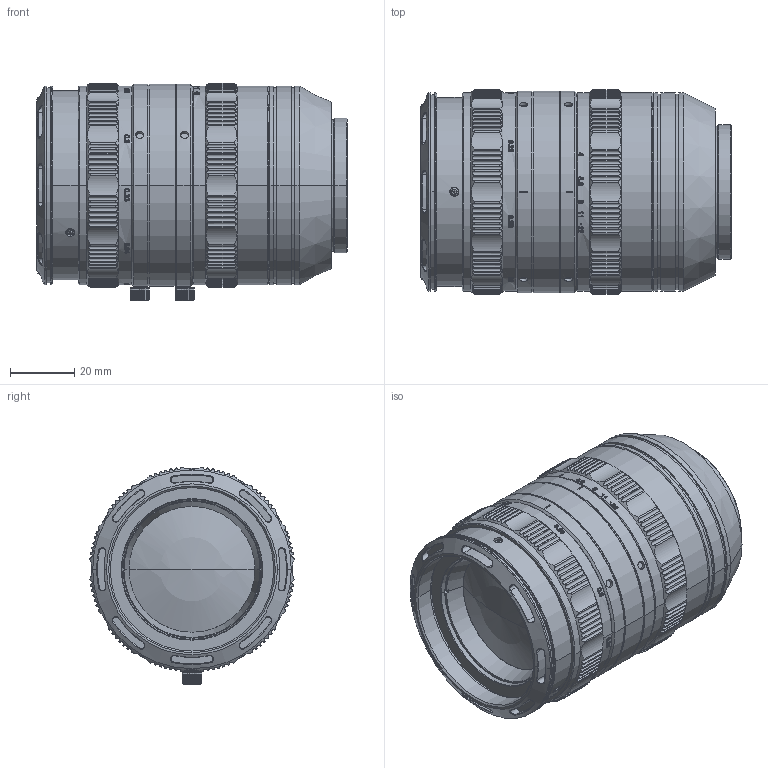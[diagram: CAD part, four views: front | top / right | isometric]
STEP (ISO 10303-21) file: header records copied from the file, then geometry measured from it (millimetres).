
FILE_DESCRIPTION((''),'2;1');
FILE_NAME('PRT0001','2024-06-18T15:16:44',('admin'),(''),'CREO PARAMETRIC BY PTC INC, 2020354','CREO PARAMETRIC BY PTC INC, 2020354','');
FILE_SCHEMA(('AUTOMOTIVE_DESIGN { 1 0 10303 214 1 1 1 1 }'));
Length unit declared in the file: millimetre
Products named in the file (1): PRT0001
Bounding box: 97 x 63.71 x 67.85 mm (x, y, z)
Volume: 233946.1 mm3; surface area: 38122.3 mm2
Topology: 1 solids, 49 shells, 2323 faces, 6151 edges, 4053 vertices
Faces by surface type: cylinder 1040, bspline 700, plane 461, cone 100, torus 18, sphere 4
Entity records: 107161 total; most frequent: CARTESIAN_POINT 55110, ORIENTED_EDGE 12290, DIRECTION 8173, EDGE_CURVE 6145, VERTEX_POINT 4053, AXIS2_PLACEMENT_3D 2871, EDGE_LOOP 2486, B_SPLINE_CURVE_WITH_KNOTS 2466
